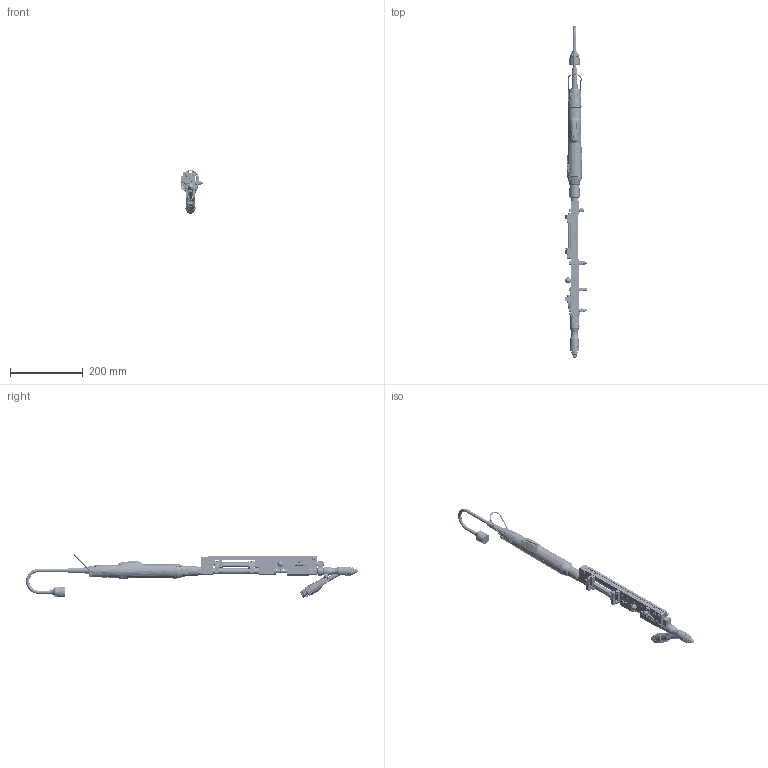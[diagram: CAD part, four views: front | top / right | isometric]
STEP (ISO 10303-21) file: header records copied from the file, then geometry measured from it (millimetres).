
FILE_DESCRIPTION(/* description */ (''),/* implementation_level */ '2;1');
FILE_NAME(/* name */ 'G:\Modelle für Marketing\3Ds Parasolid\3D_Parasolid_automatic_screwdriver_for_screws_SES1601_series.x_b.ipt.stp',/* time_stamp */ '2016-07-28T11:54:39+02:00',/* author */ ('Wolf'),/* organization */ (''),/* preprocessor_version */ 'ST-DEVELOPER v15.2',/* originating_system */ 'Autodesk Inventor 2014',/* authorisation */ '');
FILE_SCHEMA (('AUTOMOTIVE_DESIGN { 1 0 10303 214 3 1 1 }'));
Products named in the file (1): 3D_Parasolid_automatic_screwdriver_for_screws_SES1601_series.x_b
Bounding box: 60 x 915.89 x 120.17 mm (x, y, z)
Volume: 623443.7 mm3; surface area: 271508.4 mm2
Topology: 16 solids, 67 shells, 4323 faces, 11185 edges, 7204 vertices
Faces by surface type: plane 2151, cylinder 1230, cone 405, bspline 384, torus 121, sphere 32
Full cylindrical faces by diameter (mm): 1 x2, 1.5 x4, 2 x6, 2.013 x4, 2.19 x1, 2.2 x1, 2.3 x3, 2.459 x7, 2.48 x3, 2.5 x1, 2.8 x3, 2.9 x1, 3 x18, 3.04 x3, 3.1 x2, 3.2 x4, 3.242 x23, 3.4 x2, 3.8 x4, 4 x13, 4.1 x2, 4.134 x16, 4.2 x1, 4.3 x6, 4.45 x2, 4.5 x7, 4.9 x1, 4.917 x2, 5 x15, 5.02 x1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
Entity records: 178101 total; most frequent: CARTESIAN_POINT 79244, ORIENTED_EDGE 20072, DIRECTION 17692, EDGE_CURVE 10034, VERTEX_POINT 6851, AXIS2_PLACEMENT_3D 6682, EDGE_LOOP 5601, LINE 4328
